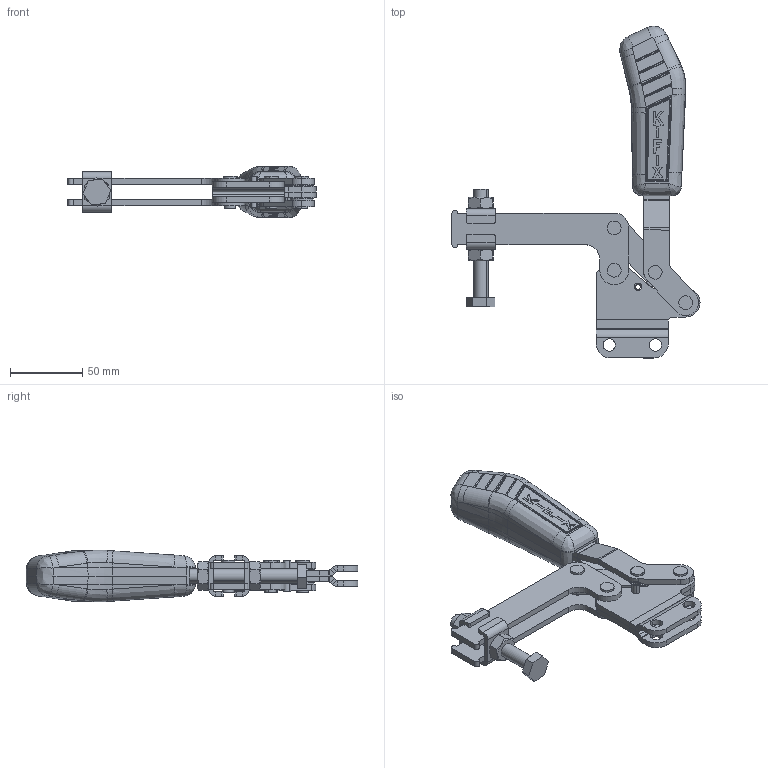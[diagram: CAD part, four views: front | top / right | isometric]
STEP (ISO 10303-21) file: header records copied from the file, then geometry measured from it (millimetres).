
FILE_DESCRIPTION (( 'STEP AP203' ), '1' );
FILE_NAME ('KF-631 RIL.STEP', '2014-08-01T19:06:01', ( 'Ricardo' ), ( '' ), 'SwSTEP 2.0', 'SolidWorks 2013', '' );
FILE_SCHEMA (( 'CONFIG_CONTROL_DESIGN' ));
Length unit declared in the file: millimetre
Products named in the file (14): 01.10016_Esquerda; 12.50004; 14.10002; 11.50003; 06.50009; 02.11010_Direita; 07.60003; 02.11010_Esquerda; 16.50002; 03.13048; 17.50002; 08.10008; KF-631 RIL; 01.10016_Direita
Assembly tree (27 placements, depth 2):
  KF-631 RIL
    02.11010_Direita
    02.11010_Esquerda
    03.13048  x2
    08.10008  x2
    01.10016_Direita
    01.10016_Esquerda
    12.50004
    11.50003  x2
    14.10002  x2
    06.50009  x4
    07.60003
    16.50002
    17.50002  x8
Bounding box: 172.01 x 230.21 x 35.98 mm (x, y, z)
Volume: 207822 mm3; surface area: 88767.1 mm2
Topology: 27 solids, 27 shells, 894 faces, 2154 edges, 1323 vertices
Faces by surface type: plane 323, cylinder 280, bspline 145, cone 95, sphere 48, torus 3
Entity records: 25826 total; most frequent: CARTESIAN_POINT 8949, ORIENTED_EDGE 3384, DIRECTION 2750, EDGE_CURVE 1692, AXIS2_PLACEMENT_3D 1055, VERTEX_POINT 1052, EDGE_LOOP 758, ADVANCED_FACE 689
